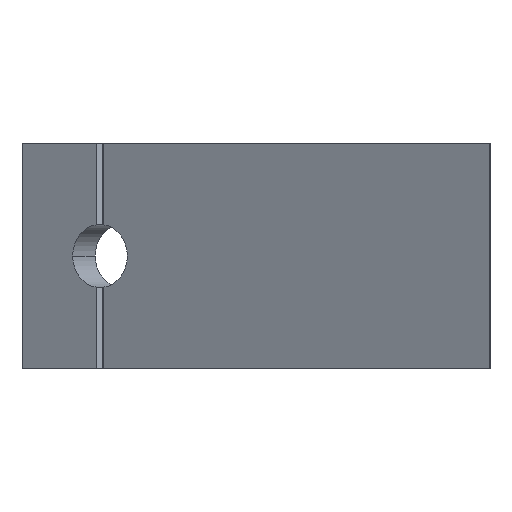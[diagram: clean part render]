
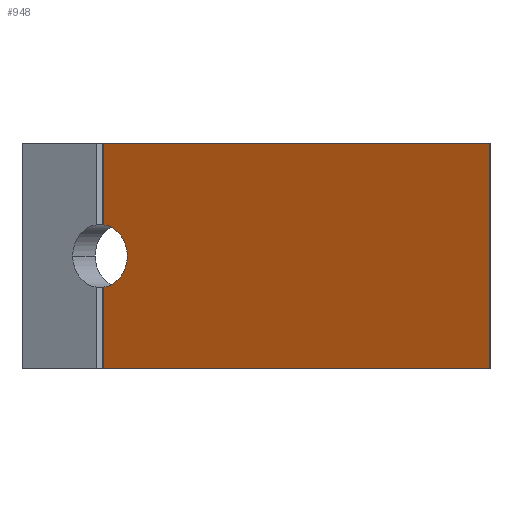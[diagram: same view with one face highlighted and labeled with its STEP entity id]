
A CAD part, left-side view. The second image highlights one B-rep face of the part: STEP entity #948.
In plain terms, the highlighted planar face has unit normal (-0.866, 0.5, 0).
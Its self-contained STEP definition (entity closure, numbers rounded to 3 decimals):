
#29 = VECTOR ( 'NONE', #335, 1000. ) ;
#31 = VERTEX_POINT ( 'NONE', #389 ) ;
#51 = CARTESIAN_POINT ( 'NONE',  ( 25., 43.301, 0. ) ) ;
#83 = VERTEX_POINT ( 'NONE', #1031 ) ;
#99 = DIRECTION ( 'NONE',  ( -0.5, -0.866, 0. ) ) ;
#113 = CARTESIAN_POINT ( 'NONE',  ( 0., 0., -12.5 ) ) ;
#118 = ORIENTED_EDGE ( 'NONE', *, *, #686, .F. ) ;
#128 = EDGE_CURVE ( 'NONE', #1188, #31, #466, .T. ) ;
#134 = ORIENTED_EDGE ( 'NONE', *, *, #717, .T. ) ;
#135 = CARTESIAN_POINT ( 'NONE',  ( 23.25, 40.27, 0. ) ) ;
#157 = DIRECTION ( 'NONE',  ( -0.866, 0.5, 0. ) ) ;
#159 = VECTOR ( 'NONE', #308, 1000. ) ;
#213 = AXIS2_PLACEMENT_3D ( 'NONE', #970, #1255, #1261 ) ;
#228 = VECTOR ( 'NONE', #1160, 1000. ) ;
#277 = EDGE_CURVE ( 'NONE', #326, #846, #618, .T. ) ;
#308 = DIRECTION ( 'NONE',  ( -0.5, -0.866, 0. ) ) ;
#326 = VERTEX_POINT ( 'NONE', #1278 ) ;
#335 = DIRECTION ( 'NONE',  ( 0., 0., 1. ) ) ;
#336 = CIRCLE ( 'NONE', #213, 3.5 ) ;
#340 = DIRECTION ( 'NONE',  ( 0.5, 0.866, 0. ) ) ;
#385 = AXIS2_PLACEMENT_3D ( 'NONE', #890, #1099, #340 ) ;
#389 = CARTESIAN_POINT ( 'NONE',  ( 0., 0., -12.5 ) ) ;
#392 = EDGE_CURVE ( 'NONE', #401, #1209, #1105, .T. ) ;
#401 = VERTEX_POINT ( 'NONE', #1093 ) ;
#439 = AXIS2_PLACEMENT_3D ( 'NONE', #51, #157, #1274 ) ;
#466 = LINE ( 'NONE', #819, #989 ) ;
#479 = CARTESIAN_POINT ( 'NONE',  ( 0., 0., 12.5 ) ) ;
#480 = CARTESIAN_POINT ( 'NONE',  ( 24.75, 42.868, -12.501 ) ) ;
#496 = FACE_OUTER_BOUND ( 'NONE', #600, .T. ) ;
#507 = VECTOR ( 'NONE', #99, 1000. ) ;
#512 = ORIENTED_EDGE ( 'NONE', *, *, #392, .F. ) ;
#583 = ORIENTED_EDGE ( 'NONE', *, *, #128, .F. ) ;
#600 = EDGE_LOOP ( 'NONE', ( #512, #1029, #1283, #930, #134, #583, #118 ) ) ;
#603 = DIRECTION ( 'NONE',  ( 0., 0., -1. ) ) ;
#618 = CIRCLE ( 'NONE', #439, 3.5 ) ;
#686 = EDGE_CURVE ( 'NONE', #1209, #1188, #1088, .T. ) ;
#717 = EDGE_CURVE ( 'NONE', #83, #31, #723, .T. ) ;
#723 = LINE ( 'NONE', #113, #159 ) ;
#787 = CARTESIAN_POINT ( 'NONE',  ( 0., 0., 12.5 ) ) ;
#819 = CARTESIAN_POINT ( 'NONE',  ( 0., 0., 12.5 ) ) ;
#831 = EDGE_CURVE ( 'NONE', #83, #326, #865, .T. ) ;
#846 = VERTEX_POINT ( 'NONE', #135 ) ;
#865 = LINE ( 'NONE', #480, #29 ) ;
#890 = CARTESIAN_POINT ( 'NONE',  ( 0., 0., 12.5 ) ) ;
#930 = ORIENTED_EDGE ( 'NONE', *, *, #831, .F. ) ;
#948 = ADVANCED_FACE ( 'NONE', ( #496 ), #985, .F. ) ;
#970 = CARTESIAN_POINT ( 'NONE',  ( 25., 43.301, 0. ) ) ;
#985 = PLANE ( 'NONE',  #385 ) ;
#989 = VECTOR ( 'NONE', #603, 1000. ) ;
#1029 = ORIENTED_EDGE ( 'NONE', *, *, #1248, .F. ) ;
#1031 = CARTESIAN_POINT ( 'NONE',  ( 24.75, 42.868, -12.5 ) ) ;
#1088 = LINE ( 'NONE', #787, #507 ) ;
#1093 = CARTESIAN_POINT ( 'NONE',  ( 24.75, 42.868, 3.464 ) ) ;
#1099 = DIRECTION ( 'NONE',  ( 0.866, -0.5, 0. ) ) ;
#1105 = LINE ( 'NONE', #1256, #228 ) ;
#1160 = DIRECTION ( 'NONE',  ( 0., 0., 1. ) ) ;
#1188 = VERTEX_POINT ( 'NONE', #479 ) ;
#1193 = CARTESIAN_POINT ( 'NONE',  ( 24.75, 42.868, 12.5 ) ) ;
#1209 = VERTEX_POINT ( 'NONE', #1193 ) ;
#1248 = EDGE_CURVE ( 'NONE', #846, #401, #336, .T. ) ;
#1255 = DIRECTION ( 'NONE',  ( -0.866, 0.5, 0. ) ) ;
#1256 = CARTESIAN_POINT ( 'NONE',  ( 24.75, 42.868, -12.501 ) ) ;
#1261 = DIRECTION ( 'NONE',  ( -0.5, -0.866, 0. ) ) ;
#1274 = DIRECTION ( 'NONE',  ( -0.5, -0.866, 0. ) ) ;
#1278 = CARTESIAN_POINT ( 'NONE',  ( 24.75, 42.868, -3.464 ) ) ;
#1283 = ORIENTED_EDGE ( 'NONE', *, *, #277, .F. ) ;
